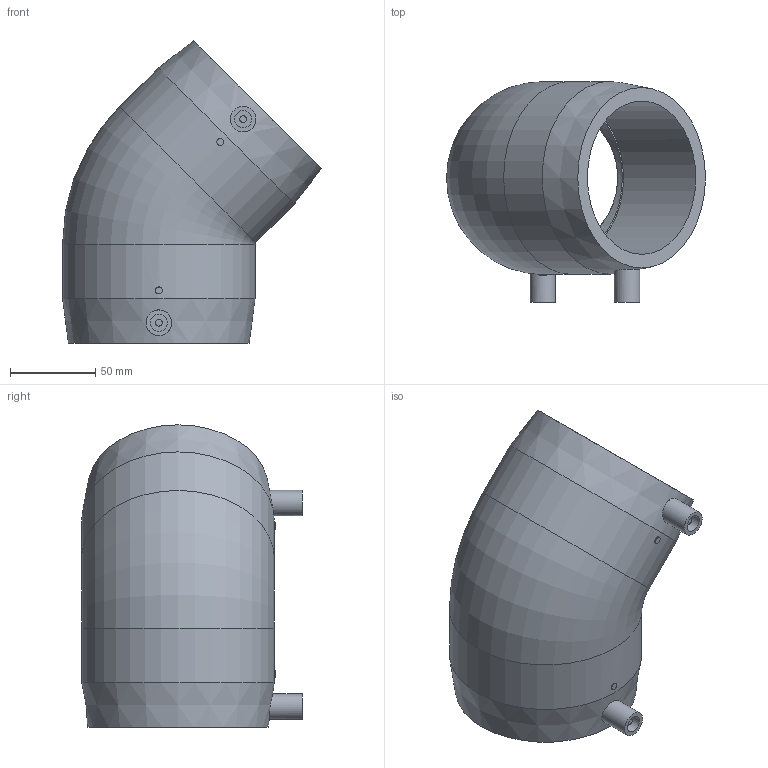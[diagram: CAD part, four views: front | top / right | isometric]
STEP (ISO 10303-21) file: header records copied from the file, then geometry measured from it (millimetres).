
FILE_DESCRIPTION(/* description */ ('Unknown'),/* implementation_level */ '2;1');
FILE_NAME(/* name */ 'GE4P090C',/* time_stamp */ '2020-12-02T09:45:17+01:00',/* author */ ('Unknown'),/* organization */ ('Unknown'),/* preprocessor_version */ 'ST-DEVELOPER v16.7',/* originating_system */ 'Solid Edge',/* authorisation */ 'Unknown');
FILE_SCHEMA (('AUTOMOTIVE_DESIGN {1 0 10303 214 3 1 1}'));
Length unit declared in the file: millimetre
Products named in the file (1): GE4P090C
Bounding box: 151.96 x 129.5 x 177.46 mm (x, y, z)
Volume: 577662 mm3; surface area: 111032.5 mm2
Topology: 1 solids, 1 shells, 30 faces, 54 edges, 36 vertices
Faces by surface type: cylinder 14, plane 12, cone 2, torus 2
Full cylindrical faces by diameter (mm): 4 x4, 10 x2, 15 x2, 90 x2, 113 x2
Entity records: 772 total; most frequent: CARTESIAN_POINT 224, DIRECTION 112, ORIENTED_EDGE 70, EDGE_LOOP 57, FACE_BOUND 57, AXIS2_PLACEMENT_3D 56, EDGE_CURVE 35, VERTEX_POINT 32
